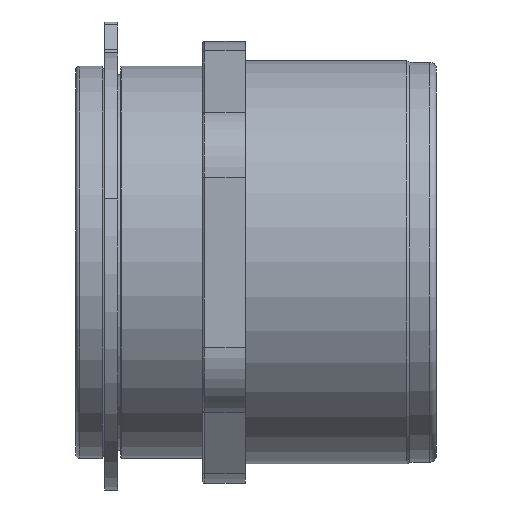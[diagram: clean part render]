
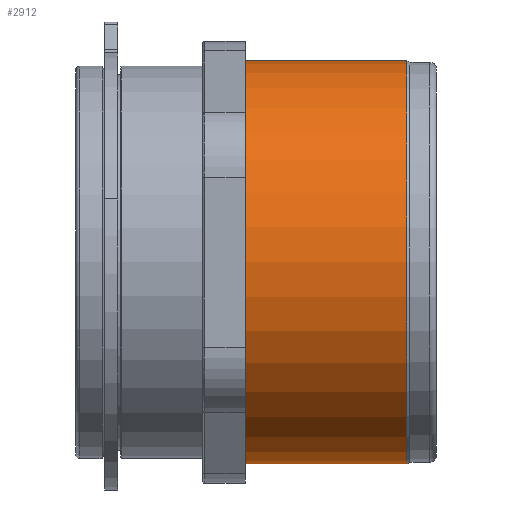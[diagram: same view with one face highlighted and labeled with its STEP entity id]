
A CAD part, left-side view. The second image highlights one B-rep face of the part: STEP entity #2912.
In plain terms, the highlighted cylindrical face has radius 30.152 mm (diameter 60.305 mm), a partial arc.
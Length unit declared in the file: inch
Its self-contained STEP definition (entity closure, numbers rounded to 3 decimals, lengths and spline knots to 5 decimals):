
#74 = AXIS2_PLACEMENT_3D ( 'NONE', #1125, #1124, #1123 ) ;
#194 = EDGE_LOOP ( 'NONE', ( #3150, #3147, #3146, #3145 ) ) ;
#441 = VECTOR ( 'NONE', #2130, 39.37008 ) ;
#455 = VECTOR ( 'NONE', #2141, 39.37008 ) ;
#457 = LINE ( 'NONE', #2123, #441 ) ;
#464 = LINE ( 'NONE', #2133, #455 ) ;
#472 = CIRCLE ( 'NONE', #1625, 1.1871 ) ;
#481 = CIRCLE ( 'NONE', #1631, 1.1871 ) ;
#879 = FACE_OUTER_BOUND ( 'NONE', #194, .T. ) ;
#882 = CYLINDRICAL_SURFACE ( 'NONE', #74, 1.1871 ) ;
#1123 = DIRECTION ( 'NONE',  ( 0., 0., 1. ) ) ;
#1124 = DIRECTION ( 'NONE',  ( 0., 1., 0. ) ) ;
#1125 = CARTESIAN_POINT ( 'NONE',  ( 0., -1.125, 0. ) ) ;
#1404 = EDGE_CURVE ( 'NONE', #1882, #1933, #457, .T. ) ;
#1409 = EDGE_CURVE ( 'NONE', #1830, #1914, #464, .T. ) ;
#1413 = EDGE_CURVE ( 'NONE', #1882, #1830, #472, .T. ) ;
#1421 = EDGE_CURVE ( 'NONE', #1933, #1914, #481, .T. ) ;
#1625 = AXIS2_PLACEMENT_3D ( 'NONE', #2147, #2148, #2149 ) ;
#1631 = AXIS2_PLACEMENT_3D ( 'NONE', #2166, #2173, #2174 ) ;
#1830 = VERTEX_POINT ( 'NONE', #2623 ) ;
#1882 = VERTEX_POINT ( 'NONE', #2672 ) ;
#1914 = VERTEX_POINT ( 'NONE', #2704 ) ;
#1933 = VERTEX_POINT ( 'NONE', #2723 ) ;
#2123 = CARTESIAN_POINT ( 'NONE',  ( 0., -1.125, -1.1871 ) ) ;
#2130 = DIRECTION ( 'NONE',  ( 0., 1., 0. ) ) ;
#2133 = CARTESIAN_POINT ( 'NONE',  ( 0., -1.125, 1.1871 ) ) ;
#2141 = DIRECTION ( 'NONE',  ( 0., 1., 0. ) ) ;
#2147 = CARTESIAN_POINT ( 'NONE',  ( 0., -0.95, 0. ) ) ;
#2148 = DIRECTION ( 'NONE',  ( 0., 1., 0. ) ) ;
#2149 = DIRECTION ( 'NONE',  ( 0., 0., 1. ) ) ;
#2166 = CARTESIAN_POINT ( 'NONE',  ( 0., 0., 0. ) ) ;
#2173 = DIRECTION ( 'NONE',  ( 0., 1., 0. ) ) ;
#2174 = DIRECTION ( 'NONE',  ( 0., 0., 1. ) ) ;
#2623 = CARTESIAN_POINT ( 'NONE',  ( 0., -0.95, 1.1871 ) ) ;
#2672 = CARTESIAN_POINT ( 'NONE',  ( 0., -0.95, -1.1871 ) ) ;
#2704 = CARTESIAN_POINT ( 'NONE',  ( 0., 0., 1.1871 ) ) ;
#2723 = CARTESIAN_POINT ( 'NONE',  ( 0., 0., -1.1871 ) ) ;
#2912 = ADVANCED_FACE ( 'NONE', ( #879 ), #882, .T. ) ;
#3145 = ORIENTED_EDGE ( 'NONE', *, *, #1421, .F. ) ;
#3146 = ORIENTED_EDGE ( 'NONE', *, *, #1409, .T. ) ;
#3147 = ORIENTED_EDGE ( 'NONE', *, *, #1413, .T. ) ;
#3150 = ORIENTED_EDGE ( 'NONE', *, *, #1404, .F. ) ;
